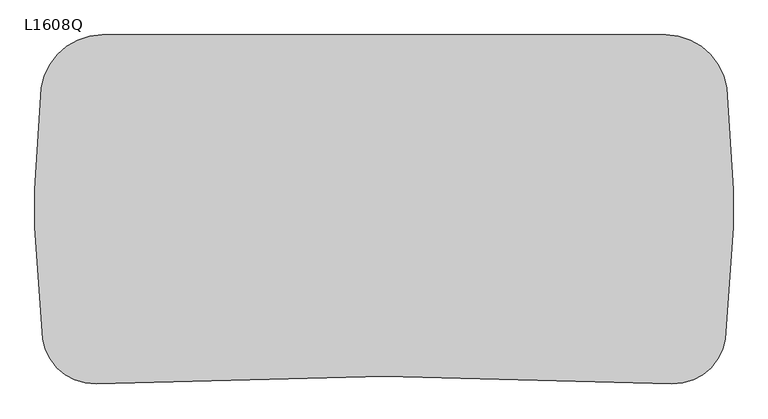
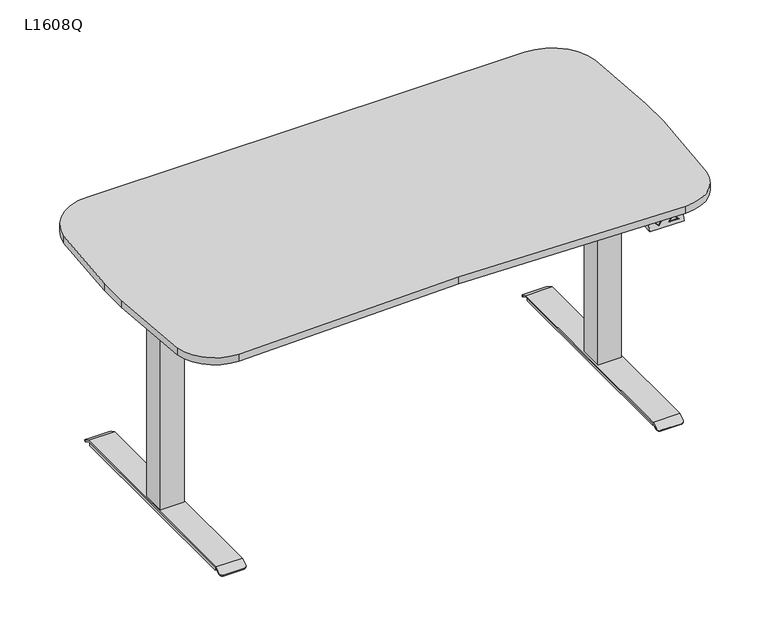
"""IFC4 building model written with IfcOpenShell, lengths in millimetres: furniture geometry, PINTA EQC : L1608Q."""

from ifc_helpers import new_model, si_unit, point, frame, frame_2d, origin, origin_with_axes, place, context, project, spatial, polyline, circle_curve, trimmed, segment, composite_curve, outline, extrude, faceted_brep, source, transform, mapped, element, save
from ifc_brep_helpers import plane_surface, cylinder_surface, advanced_brep


def l1608q_19601a8c(model_context):
    return source(origin(), model_context, "Body", "SolidModel", [
        faceted_brep([(577.0825823, -780.5086096, 687.8390737), (587.1666, -783.989927, 678.1894724), (587.1418016, -784.9382861, 678.5057002), (577.0577839, -781.4569687, 688.1553015), (597.4187767, -781.040375, 687.8390737), (597.3939783, -781.9887341, 688.1553015), (617.1453864, -785.1933595, 676.9313251), (632.2642527, -780.8436606, 691.1615746), (632.2394543, -781.7920198, 691.4778023), (617.120588, -786.1417187, 677.2475529), (559.5596595, -787.7201455, 668.0), (659.5254893, -790.3341237, 668.0), (659.7868871, -780.3375407, 698.0), (559.8210574, -777.7235626, 698.0), (572.2475389, -780.6985153, 690.0526681), (602.2372878, -781.4827087, 690.0526681), (587.1184215, -785.8324077, 675.8224186), (647.1103369, -786.9259121, 677.2475529), (642.3000919, -786.1674587, 679.1449195), (632.2160742, -782.6861413, 688.7945208), (621.9638975, -785.6356933, 679.1449195), (602.2620862, -780.5343496, 689.7364403), (572.2723373, -779.7501561, 689.7364403), (587.1432199, -784.8840485, 675.5061908), (647.1351353, -785.977553, 676.9313251), (632.2408726, -781.7377822, 688.478293), (642.3248903, -785.2190995, 678.8286917), (621.9886958, -784.6873342, 678.8286917), (560.343853, -757.7303966, 668.0), (660.3096827, -760.3443748, 668.0), (660.5710806, -750.3477918, 698.0), (560.6052508, -747.7338136, 698.0)], [[[0, 1, 2, 3]], [[1, 4, 5, 2]], [[6, 7, 8, 9]], [[10, 11, 12, 13], [14, 15, 16], [17, 9, 8]], [[2, 5, 3]], [[18, 19, 20]], [[21, 22, 23], [4, 1, 0]], [[6, 24, 7], [25, 26, 27]], [[10, 28, 29, 11]], [[13, 12, 30, 31]], [[28, 10, 13, 31]], [[11, 29, 30, 12]], [[29, 28, 31, 30]], [[22, 21, 15, 14]], [[23, 22, 14, 16]], [[21, 23, 16, 15]], [[24, 6, 9, 17]], [[7, 24, 17, 8]], [[4, 0, 3, 5]], [[26, 25, 19, 18]], [[27, 26, 18, 20]], [[25, 27, 20, 19]]]),
        extrude(outline(polyline([(-679.2088623, -459.7732181), (680.0, -459.7733091), (680.0, -479.7733091), (-679.2088623, -479.7732181), (-679.2088623, -459.7732181)])), frame((0.0, 0.0, 658.0), z_axis=(0.0, 0.0, 1.0), x_axis=(1.0, 0.0, 0.0)), (0.0, 0.0, 1.0), 40.0),
        extrude(outline(polyline([(-679.2088623, -319.7732181), (680.0, -319.7733091), (680.0, -339.7733091), (-679.2088623, -339.7732181), (-679.2088623, -319.7732181)])), frame((0.0, 0.0, 658.0), z_axis=(0.0, 0.0, 1.0), x_axis=(1.0, 0.0, 0.0)), (0.0, 0.0, 1.0), 40.0),
        extrude(outline(composite_curve([segment(polyline([(-0.0003891, -782.0390015), (-658.8804601, -799.2677497)]), True, "CONTINUOUS"), segment(trimmed(circle_curve(frame_2d((-662.017212, -679.3087534)), 120.0), [point((-658.8804601, -799.2677497))], [point((-780.8108936, -696.2811199))], False, "CARTESIAN"), True, "CONTINUOUS"), segment(trimmed(circle_curve(frame_2d((1001.0943298, -441.6956237)), 1800.0), [point((-780.8108936, -696.2811199))], [point((-798.9056702, -441.6956237))], False, "CARTESIAN"), True, "CONTINUOUS"), segment(polyline([(-798.9056702, -441.6956237), (-798.9056702, -353.9736003)]), True, "CONTINUOUS"), segment(trimmed(circle_curve(frame_2d((1001.0943298, -353.9736003)), 1800.0), [point((-798.9056702, -353.9736003))], [point((-783.8894014, -121.9540337))], False, "CARTESIAN"), True, "CONTINUOUS"), segment(trimmed(circle_curve(frame_2d((-645.0573334, -140.0)), 140.0), [point((-783.8894014, -121.9540337))], [point((-645.0573334, 0.0))], False, "CARTESIAN"), True, "CONTINUOUS"), segment(polyline([(-645.0573334, 0.0), (645.0519623, 0.0)]), True, "CONTINUOUS"), segment(trimmed(circle_curve(frame_2d((645.0519623, -140.0)), 140.0), [point((645.0519623, 0.0))], [point((783.8840303, -121.9540337))], False, "CARTESIAN"), True, "CONTINUOUS"), segment(trimmed(circle_curve(frame_2d((-1001.0997009, -353.9736003)), 1800.0), [point((783.8840303, -121.9540337))], [point((798.9002991, -353.9736003))], False, "CARTESIAN"), True, "CONTINUOUS"), segment(polyline([(798.9002991, -353.9736003), (798.9002991, -441.6956237)]), True, "CONTINUOUS"), segment(trimmed(circle_curve(frame_2d((-1001.0997009, -441.6956237)), 1800.0), [point((798.9002991, -441.6956237))], [point((780.8055225, -696.2811199))], False, "CARTESIAN"), True, "CONTINUOUS"), segment(trimmed(circle_curve(frame_2d((662.0118409, -679.3087534)), 120.0), [point((780.8055225, -696.2811199))], [point((658.8750671, -799.2677491))], False, "CARTESIAN"), True, "CONTINUOUS"), segment(polyline([(658.8750671, -799.2677491), (-0.0003891, -782.0390015)]), True, "CONTINUOUS")], self_intersect=False)), frame((0.0, 0.0, 698.0), z_axis=(0.0, 0.0, 1.0), x_axis=(1.0, 0.0, 0.0)), (0.0, 0.0, 1.0), 22.0),
        advanced_brep(
        [(606.9772339, -720.0, 6.0), (606.9772339, -720.0, 16.0), (606.9772339, -80.0, 16.0), (606.9772339, -80.0, 6.0), (683.0227661, -80.0, 16.0), (683.0227661, -80.0, 6.0), (683.0227661, -720.0, 16.0), (683.0227661, -720.0, 6.0), (606.0, -75.0, 20.0), (606.0, -56.9800481, 9.908827), (606.0, -58.9344616, 6.4188029), (606.0, -76.0437422, 16.0), (606.0, -723.9562578, 16.0), (606.0, -741.0655384, 6.4188029), (606.0, -743.0199519, 9.908827), (606.0, -725.0, 20.0), (684.0, -76.0437422, 16.0), (684.0, -58.9344616, 6.4188029), (684.0, -56.9800481, 9.908827), (684.0, -75.0, 20.0), (684.0, -725.0, 20.0), (684.0, -743.0199519, 9.908827), (684.0, -741.0655384, 6.4188029), (684.0, -723.9562578, 16.0), (614.0, -750.0, 6.0), (676.0, -750.0, 6.0), (614.0, -748.0455865, 2.5099759), (676.0, -748.0455865, 2.5099759), (614.0, -51.9544135, 2.5099759), (676.0, -51.9544135, 2.5099759), (614.0, -50.0, 6.0), (676.0, -50.0, 6.0)],
        [
            (0, 1),
            (1, 2),
            (2, 3),
            (3, 0),
            (2, 4),
            (4, 5),
            (5, 3),
            (4, 6),
            (6, 7),
            (7, 5),
            (6, 1),
            (0, 7),
            (8, 9),
            (9, 10),
            (10, 11),
            (11, 12),
            (12, 13),
            (13, 14),
            (14, 15),
            (15, 8),
            (16, 17),
            (17, 18),
            (18, 19),
            (19, 20),
            (20, 21),
            (21, 22),
            (22, 23),
            (23, 16),
            (15, 20),
            (19, 8),
            (11, 16),
            (23, 12),
            (14, 24, circle_curve(frame((614.0, -743.0199519, 9.908827), z_axis=(0.0, -0.4886033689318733, 0.8725060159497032), x_axis=(0.0, 0.8725060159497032, 0.4886033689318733)), 8.0)),
            (24, 25),
            (25, 21, circle_curve(frame((676.0, -743.0199519, 9.908827), z_axis=(0.0, -0.4886033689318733, 0.8725060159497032), x_axis=(0.0, 0.8725060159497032, 0.4886033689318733)), 8.0)),
            (24, 26),
            (26, 27),
            (27, 25),
            (22, 27, circle_curve(frame((676.0, -741.0655384, 6.4188029), z_axis=(0.0, 0.4886033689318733, -0.8725060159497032), x_axis=(0.0, 0.8725060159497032, 0.4886033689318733)), 8.0)),
            (26, 13, circle_curve(frame((614.0, -741.0655384, 6.4188029), z_axis=(0.0, 0.4886033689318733, -0.8725060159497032), x_axis=(0.0, 0.8725060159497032, 0.4886033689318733)), 8.0)),
            (10, 28, circle_curve(frame((614.0, -58.9344616, 6.4188029), z_axis=(0.0, -0.4886033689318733, -0.8725060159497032), x_axis=(0.0, -0.8725060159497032, 0.4886033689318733)), 8.0)),
            (28, 29),
            (29, 17, circle_curve(frame((676.0, -58.9344616, 6.4188029), z_axis=(0.0, -0.4886033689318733, -0.8725060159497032), x_axis=(0.0, -0.8725060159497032, 0.4886033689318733)), 8.0)),
            (28, 30),
            (30, 31),
            (31, 29),
            (18, 31, circle_curve(frame((676.0, -56.9800481, 9.908827), z_axis=(0.0, 0.4886033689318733, 0.8725060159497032), x_axis=(0.0, -0.8725060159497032, 0.4886033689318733)), 8.0)),
            (30, 9, circle_curve(frame((614.0, -56.9800481, 9.908827), z_axis=(0.0, 0.4886033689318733, 0.8725060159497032), x_axis=(0.0, -0.8725060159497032, 0.4886033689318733)), 8.0)),
        ],
        [
            plane_surface(frame((606.9772339, -720.0, 16.0), z_axis=(-1.0, 0.0, 0.0), x_axis=(0.0, 0.0, -1.0))),
            plane_surface(frame((606.9772339, -80.0, 16.0), z_axis=(0.0, 1.0, 0.0), x_axis=(0.0, 0.0, -1.0))),
            plane_surface(frame((683.0227661, -80.0, 16.0), z_axis=(1.0, 0.0, 0.0), x_axis=(0.0, 0.0, -1.0))),
            plane_surface(frame((683.0227661, -720.0, 16.0), z_axis=(0.0, -1.0, 0.0), x_axis=(0.0, 0.0, -1.0))),
            plane_surface(frame((606.9772339, -723.4188232, 6.0), z_axis=(0.0, 0.0, -1.0), x_axis=(0.0, -1.0, 0.0))),
            plane_surface(frame((606.0, -400.0, 20.0), z_axis=(-1.0, 0.0, 0.0), x_axis=(0.0, -1.0, 0.0))),
            plane_surface(frame((684.0, -400.0, 20.0), z_axis=(1.0, 0.0, 0.0), x_axis=(0.0, 1.0, 0.0))),
            plane_surface(frame((606.0, -75.0, 20.0), z_axis=(0.0, 0.0, 1.0), x_axis=(1.0, 0.0, 0.0))),
            plane_surface(frame((606.0, -723.9562578, 16.0), z_axis=(0.0, 0.0, -1.0), x_axis=(1.0, 0.0, 0.0))),
            plane_surface(frame((606.0, -725.0, 20.0), z_axis=(0.0, -0.4886033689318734, 0.8725060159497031), x_axis=(1.0, 0.0, 0.0))),
            plane_surface(frame((606.0, -750.0, 6.0), z_axis=(0.0, -0.872506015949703, -0.4886033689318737), x_axis=(1.0, 0.0, 0.0))),
            plane_surface(frame((606.0, -748.0455865, 2.5099759), z_axis=(0.0, 0.4886033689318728, -0.8725060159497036), x_axis=(1.0, 0.0, 0.0))),
            plane_surface(frame((606.0, -76.0437422, 16.0), z_axis=(0.0, -0.4886033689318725, -0.8725060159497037), x_axis=(1.0, 0.0, 0.0))),
            plane_surface(frame((606.0, -51.9544135, 2.5099759), z_axis=(0.0, 0.8725060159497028, -0.48860336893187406), x_axis=(1.0, 0.0, 0.0))),
            plane_surface(frame((606.0, -50.0, 6.0), z_axis=(0.0, 0.48860336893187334, 0.8725060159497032), x_axis=(1.0, 0.0, 0.0))),
            cylinder_surface(frame((614.0, -743.0199519, 9.908827), z_axis=(0.0, -0.4886033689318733, 0.8725060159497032), x_axis=(0.0, 0.8725060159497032, 0.4886033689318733)), 8.0),
            cylinder_surface(frame((676.0, -743.0199519, 9.908827), z_axis=(0.0, -0.4886033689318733, 0.8725060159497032), x_axis=(0.0, 0.8725060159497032, 0.4886033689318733)), 8.0),
            cylinder_surface(frame((614.0, -56.9800481, 9.908827), z_axis=(0.0, 0.4886033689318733, 0.8725060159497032), x_axis=(0.0, -0.8725060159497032, 0.4886033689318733)), 8.0),
            cylinder_surface(frame((676.0, -56.9800481, 9.908827), z_axis=(0.0, 0.4886033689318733, 0.8725060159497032), x_axis=(0.0, -0.8725060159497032, 0.4886033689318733)), 8.0),
        ],
        [
            (0, [[1, 2, 3, 4]]),
            (1, [[-3, 5, 6, 7]]),
            (2, [[-6, 8, 9, 10]]),
            (3, [[-9, 11, -1, 12]]),
            (4, [[-4, -7, -10, -12]]),
            (5, [[13, 14, 15, 16, 17, 18, 19, 20]]),
            (6, [[21, 22, 23, 24, 25, 26, 27, 28]]),
            (7, [[29, -24, 30, -20]]),
            (8, [[31, -28, 32, -16], [-11, -8, -5, -2]]),
            (9, [[-19, 33, 34, 35, -25, -29]]),
            (10, [[36, 37, 38, -34]]),
            (11, [[-27, 39, -37, 40, -17, -32]]),
            (12, [[-15, 41, 42, 43, -21, -31]]),
            (13, [[44, 45, 46, -42]]),
            (14, [[-23, 47, -45, 48, -13, -30]]),
            (15, [[-40, -36, -33, -18]]),
            (16, [[-35, -38, -39, -26]]),
            (17, [[-48, -44, -41, -14]]),
            (18, [[-43, -46, -47, -22]]),
        ],
    ),
        faceted_brep([(479.4551307, -460.0, 698.0), (662.9996948, -460.0, 698.0), (662.9996948, -700.0, 698.0), (679.4551307, -700.0, 698.0), (683.0, -700.0, 698.0), (683.0, -100.0, 698.0), (679.4551307, -100.0, 698.0), (662.9996948, -100.0, 698.0), (662.9996948, -340.0, 698.0), (479.4551307, -340.0, 698.0), (479.4551307, -460.0, 635.2327881), (479.4551307, -340.0, 635.2327881), (679.4551307, -340.0, 635.2327881), (679.4551307, -303.8252348, 635.2327881), (683.0, -303.8252348, 635.2327881), (683.0, -496.1747652, 635.2327881), (679.4551307, -496.1747652, 635.2327881), (679.4551307, -460.0, 635.2327881), (662.9996948, -340.0, 694.9093018), (679.4551307, -340.0, 694.9093018), (679.4551307, -460.0, 694.9093018), (662.9996948, -460.0, 694.9093018), (679.4551307, -700.0, 694.9093018), (662.9996948, -700.0, 694.9093018), (679.4551307, -100.0, 694.9093018), (662.9996948, -100.0, 694.9093018), (679.4551307, -101.1249222, 694.9093018), (679.4551307, -698.8750778, 694.9093018), (679.4551307, -108.5505036, 674.5076845), (679.4551307, -691.4494964, 674.5076845), (683.0, -108.5505036, 674.5076845), (683.0, -691.4494964, 674.5076845)], [[[0, 1, 2, 3, 4, 5, 6, 7, 8, 9]], [[10, 11, 12, 13, 14, 15, 16, 17]], [[9, 11, 10, 0]], [[11, 9, 8, 18, 19, 12]], [[17, 20, 21, 1, 0, 10]], [[22, 3, 2, 23]], [[24, 25, 7, 6]], [[24, 26, 19, 18, 25]], [[23, 21, 20, 27, 22]], [[2, 1, 21, 23]], [[25, 18, 8, 7]], [[13, 12, 19, 26, 28]], [[29, 27, 20, 17, 16]], [[15, 14, 30, 5, 4, 31]], [[16, 15, 31, 29]], [[22, 27, 3]], [[6, 26, 24]], [[4, 3, 27, 29, 31]], [[28, 30, 14, 13]], [[30, 28, 26, 6, 5]]]),
        extrude(outline(composite_curve([segment(trimmed(circle_curve(frame_2d((645.0, -705.0)), 25.0), [point((670.0, -705.0))], [point((620.0, -705.0))], False, "CARTESIAN"), True, "CONTINUOUS"), segment(trimmed(circle_curve(frame_2d((645.0, -705.0)), 25.0), [point((620.0, -705.0))], [point((670.0, -705.0))], False, "CARTESIAN"), True, "CONTINUOUS")], self_intersect=False)), origin_with_axes(), (0.0, 0.0, 1.0), 6.0),
        extrude(outline(composite_curve([segment(trimmed(circle_curve(frame_2d((645.0, -95.0)), 25.0), [point((670.0, -95.0))], [point((620.0, -95.0))], False, "CARTESIAN"), True, "CONTINUOUS"), segment(trimmed(circle_curve(frame_2d((645.0, -95.0)), 25.0), [point((620.0, -95.0))], [point((670.0, -95.0))], False, "CARTESIAN"), True, "CONTINUOUS")], self_intersect=False)), origin_with_axes(), (0.0, 0.0, 1.0), 6.0),
        faceted_brep([(610.0, -365.0, 550.0), (610.0, -434.9621325, 550.0), (680.0, -434.9621325, 550.0), (680.0, -365.0, 550.0), (675.0, -370.0, 550.0), (675.0, -429.9621325, 550.0), (615.0, -429.9621325, 550.0), (615.0, -370.0, 550.0), (610.0, -365.0, 20.0), (680.0, -365.0, 20.0), (680.0, -434.9621325, 20.0), (610.0, -434.9621325, 20.0), (615.0, -370.0, 592.616394), (615.0, -429.9621325, 592.616394), (675.0, -429.9621325, 592.616394), (675.0, -370.0, 592.616394), (670.0, -375.0, 592.616394), (670.0, -424.9621325, 592.616394), (620.0, -424.9621325, 592.616394), (620.0, -375.0, 592.616394), (620.0, -375.0, 635.2327881), (620.0, -424.9621325, 635.2327881), (670.0, -424.9621325, 635.2327881), (670.0, -375.0, 635.2327881)], [[[0, 1, 2, 3], [4, 5, 6, 7]], [[8, 9, 10, 11]], [[3, 9, 8, 0]], [[2, 10, 9, 3]], [[1, 11, 10, 2]], [[0, 8, 11, 1]], [[12, 13, 14, 15], [16, 17, 18, 19]], [[15, 4, 7, 12]], [[14, 5, 4, 15]], [[13, 6, 5, 14]], [[12, 7, 6, 13]], [[20, 21, 22, 23]], [[23, 16, 19, 20]], [[22, 17, 16, 23]], [[21, 18, 17, 22]], [[20, 19, 18, 21]]]),
        advanced_brep(
        [(-606.9772339, -720.0, 6.0), (-606.9772339, -80.0, 6.0), (-606.9772339, -80.0, 16.0), (-606.9772339, -720.0, 16.0), (-683.0227661, -80.0, 6.0), (-683.0227661, -80.0, 16.0), (-683.0227661, -720.0, 6.0), (-683.0227661, -720.0, 16.0), (-606.0, -75.0, 20.0), (-606.0, -725.0, 20.0), (-606.0, -743.0199519, 9.908827), (-606.0, -741.0655384, 6.4188029), (-606.0, -723.9562578, 16.0), (-606.0, -76.0437422, 16.0), (-606.0, -58.9344616, 6.4188029), (-606.0, -56.9800481, 9.908827), (-684.0, -76.0437422, 16.0), (-684.0, -723.9562578, 16.0), (-684.0, -741.0655384, 6.4188029), (-684.0, -743.0199519, 9.908827), (-684.0, -725.0, 20.0), (-684.0, -75.0, 20.0), (-684.0, -56.9800481, 9.908827), (-684.0, -58.9344616, 6.4188029), (-676.0, -750.0, 6.0), (-614.0, -750.0, 6.0), (-676.0, -748.0455865, 2.5099759), (-614.0, -748.0455865, 2.5099759), (-676.0, -51.9544135, 2.5099759), (-614.0, -51.9544135, 2.5099759), (-676.0, -50.0, 6.0), (-614.0, -50.0, 6.0)],
        [
            (0, 1),
            (1, 2),
            (2, 3),
            (3, 0),
            (1, 4),
            (4, 5),
            (5, 2),
            (4, 6),
            (6, 7),
            (7, 5),
            (6, 0),
            (3, 7),
            (8, 9),
            (9, 10),
            (10, 11),
            (11, 12),
            (12, 13),
            (13, 14),
            (14, 15),
            (15, 8),
            (16, 17),
            (17, 18),
            (18, 19),
            (19, 20),
            (20, 21),
            (21, 22),
            (22, 23),
            (23, 16),
            (8, 21),
            (20, 9),
            (12, 17),
            (16, 13),
            (19, 24, circle_curve(frame((-676.0, -743.0199519, 9.908827), z_axis=(0.0, -0.4886033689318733, 0.8725060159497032), x_axis=(0.0, 0.8725060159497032, 0.4886033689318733)), 8.0)),
            (24, 25),
            (25, 10, circle_curve(frame((-614.0, -743.0199519, 9.908827), z_axis=(0.0, -0.4886033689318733, 0.8725060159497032), x_axis=(0.0, 0.8725060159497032, 0.4886033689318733)), 8.0)),
            (24, 26),
            (26, 27),
            (27, 25),
            (11, 27, circle_curve(frame((-614.0, -741.0655384, 6.4188029), z_axis=(0.0, 0.4886033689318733, -0.8725060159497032), x_axis=(0.0, 0.8725060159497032, 0.4886033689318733)), 8.0)),
            (26, 18, circle_curve(frame((-676.0, -741.0655384, 6.4188029), z_axis=(0.0, 0.4886033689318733, -0.8725060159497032), x_axis=(0.0, 0.8725060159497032, 0.4886033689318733)), 8.0)),
            (23, 28, circle_curve(frame((-676.0, -58.9344616, 6.4188029), z_axis=(0.0, -0.4886033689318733, -0.8725060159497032), x_axis=(0.0, -0.8725060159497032, 0.4886033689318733)), 8.0)),
            (28, 29),
            (29, 14, circle_curve(frame((-614.0, -58.9344616, 6.4188029), z_axis=(0.0, -0.4886033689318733, -0.8725060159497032), x_axis=(0.0, -0.8725060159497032, 0.4886033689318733)), 8.0)),
            (28, 30),
            (30, 31),
            (31, 29),
            (15, 31, circle_curve(frame((-614.0, -56.9800481, 9.908827), z_axis=(0.0, 0.4886033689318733, 0.8725060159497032), x_axis=(0.0, -0.8725060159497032, 0.4886033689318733)), 8.0)),
            (30, 22, circle_curve(frame((-676.0, -56.9800481, 9.908827), z_axis=(0.0, 0.4886033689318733, 0.8725060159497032), x_axis=(0.0, -0.8725060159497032, 0.4886033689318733)), 8.0)),
        ],
        [
            plane_surface(frame((-606.9772339, -720.0, 16.0), z_axis=(1.0, 0.0, 0.0), x_axis=(0.0, 0.0, -1.0))),
            plane_surface(frame((-606.9772339, -80.0, 16.0), z_axis=(0.0, 1.0, 0.0), x_axis=(0.0, 0.0, -1.0))),
            plane_surface(frame((-683.0227661, -80.0, 16.0), z_axis=(-1.0, 0.0, 0.0), x_axis=(0.0, 0.0, -1.0))),
            plane_surface(frame((-683.0227661, -720.0, 16.0), z_axis=(0.0, -1.0, 0.0), x_axis=(0.0, 0.0, -1.0))),
            plane_surface(frame((-606.9772339, -723.4188232, 6.0), z_axis=(0.0, 0.0, -1.0), x_axis=(0.0, -1.0, 0.0))),
            plane_surface(frame((-606.0, -400.0, 20.0), z_axis=(1.0, 0.0, 0.0), x_axis=(0.0, -1.0, 0.0))),
            plane_surface(frame((-684.0, -400.0, 20.0), z_axis=(-1.0, 0.0, 0.0), x_axis=(0.0, 1.0, 0.0))),
            plane_surface(frame((-606.0, -75.0, 20.0), z_axis=(0.0, 0.0, 1.0), x_axis=(-1.0, 0.0, 0.0))),
            plane_surface(frame((-606.0, -723.9562578, 16.0), z_axis=(0.0, 0.0, -1.0), x_axis=(-1.0, 0.0, 0.0))),
            plane_surface(frame((-606.0, -725.0, 20.0), z_axis=(0.0, -0.4886033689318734, 0.8725060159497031), x_axis=(-1.0, 0.0, 0.0))),
            plane_surface(frame((-606.0, -750.0, 6.0), z_axis=(0.0, -0.872506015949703, -0.4886033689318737), x_axis=(-1.0, 0.0, 0.0))),
            plane_surface(frame((-606.0, -748.0455865, 2.5099759), z_axis=(0.0, 0.4886033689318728, -0.8725060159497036), x_axis=(-1.0, 0.0, 0.0))),
            plane_surface(frame((-606.0, -76.0437422, 16.0), z_axis=(0.0, -0.4886033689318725, -0.8725060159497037), x_axis=(-1.0, 0.0, 0.0))),
            plane_surface(frame((-606.0, -51.9544135, 2.5099759), z_axis=(0.0, 0.8725060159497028, -0.48860336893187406), x_axis=(-1.0, 0.0, 0.0))),
            plane_surface(frame((-606.0, -50.0, 6.0), z_axis=(0.0, 0.48860336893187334, 0.8725060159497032), x_axis=(-1.0, 0.0, 0.0))),
            cylinder_surface(frame((-614.0, -743.0199519, 9.908827), z_axis=(0.0, -0.4886033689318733, 0.8725060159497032), x_axis=(0.0, 0.8725060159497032, 0.4886033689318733)), 8.0),
            cylinder_surface(frame((-676.0, -743.0199519, 9.908827), z_axis=(0.0, -0.4886033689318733, 0.8725060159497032), x_axis=(0.0, 0.8725060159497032, 0.4886033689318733)), 8.0),
            cylinder_surface(frame((-614.0, -56.9800481, 9.908827), z_axis=(0.0, 0.4886033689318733, 0.8725060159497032), x_axis=(0.0, -0.8725060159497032, 0.4886033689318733)), 8.0),
            cylinder_surface(frame((-676.0, -56.9800481, 9.908827), z_axis=(0.0, 0.4886033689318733, 0.8725060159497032), x_axis=(0.0, -0.8725060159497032, 0.4886033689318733)), 8.0),
        ],
        [
            (0, [[1, 2, 3, 4]]),
            (1, [[5, 6, 7, -2]]),
            (2, [[8, 9, 10, -6]]),
            (3, [[11, -4, 12, -9]]),
            (4, [[-11, -8, -5, -1]]),
            (5, [[13, 14, 15, 16, 17, 18, 19, 20]]),
            (6, [[21, 22, 23, 24, 25, 26, 27, 28]]),
            (7, [[-13, 29, -25, 30]]),
            (8, [[-17, 31, -21, 32], [-3, -7, -10, -12]]),
            (9, [[-30, -24, 33, 34, 35, -14]]),
            (10, [[-34, 36, 37, 38]]),
            (11, [[-31, -16, 39, -37, 40, -22]]),
            (12, [[-32, -28, 41, 42, 43, -18]]),
            (13, [[-42, 44, 45, 46]]),
            (14, [[-29, -20, 47, -45, 48, -26]]),
            (15, [[-15, -35, -38, -39]]),
            (16, [[-23, -40, -36, -33]]),
            (17, [[-19, -43, -46, -47]]),
            (18, [[-27, -48, -44, -41]]),
        ],
    ),
        faceted_brep([(-479.4551307, -460.0, 698.0), (-479.4551307, -340.0, 698.0), (-662.9996948, -340.0, 698.0), (-662.9996948, -100.0, 698.0), (-679.4551307, -100.0, 698.0), (-683.0, -100.0, 698.0), (-683.0, -700.0, 698.0), (-679.4551307, -700.0, 698.0), (-662.9996948, -700.0, 698.0), (-662.9996948, -460.0, 698.0), (-479.4551307, -460.0, 635.2327881), (-679.4551307, -460.0, 635.2327881), (-679.4551307, -496.1747652, 635.2327881), (-683.0, -496.1747652, 635.2327881), (-683.0, -303.8252348, 635.2327881), (-679.4551307, -303.8252348, 635.2327881), (-679.4551307, -340.0, 635.2327881), (-479.4551307, -340.0, 635.2327881), (-679.4551307, -340.0, 694.9093018), (-662.9996948, -340.0, 694.9093018), (-662.9996948, -460.0, 694.9093018), (-679.4551307, -460.0, 694.9093018), (-679.4551307, -700.0, 694.9093018), (-662.9996948, -700.0, 694.9093018), (-679.4551307, -100.0, 694.9093018), (-662.9996948, -100.0, 694.9093018), (-679.4551307, -698.8750778, 694.9093018), (-679.4551307, -101.1249222, 694.9093018), (-679.4551307, -691.4494964, 674.5076845), (-679.4551307, -108.5505036, 674.5076845), (-683.0, -691.4494964, 674.5076845), (-683.0, -108.5505036, 674.5076845)], [[[0, 1, 2, 3, 4, 5, 6, 7, 8, 9]], [[10, 11, 12, 13, 14, 15, 16, 17]], [[1, 0, 10, 17]], [[17, 16, 18, 19, 2, 1]], [[11, 10, 0, 9, 20, 21]], [[22, 23, 8, 7]], [[24, 4, 3, 25]], [[23, 22, 26, 21, 20]], [[24, 25, 19, 18, 27]], [[8, 23, 20, 9]], [[25, 3, 2, 19]], [[28, 12, 11, 21, 26]], [[15, 29, 27, 18, 16]], [[13, 30, 6, 5, 31, 14]], [[12, 28, 30, 13]], [[22, 7, 26]], [[4, 24, 27]], [[6, 30, 28, 26, 7]], [[29, 15, 14, 31]], [[31, 5, 4, 27, 29]]]),
        extrude(outline(composite_curve([segment(trimmed(circle_curve(frame_2d((-645.0, -705.0)), 25.0), [point((-670.0, -705.0))], [point((-620.0, -705.0))], False, "CARTESIAN"), True, "CONTINUOUS"), segment(trimmed(circle_curve(frame_2d((-645.0, -705.0)), 25.0), [point((-620.0, -705.0))], [point((-670.0, -705.0))], False, "CARTESIAN"), True, "CONTINUOUS")], self_intersect=False)), origin_with_axes(), (0.0, 0.0, 1.0), 6.0),
        extrude(outline(composite_curve([segment(trimmed(circle_curve(frame_2d((-645.0, -95.0)), 25.0), [point((-670.0, -95.0))], [point((-620.0, -95.0))], False, "CARTESIAN"), True, "CONTINUOUS"), segment(trimmed(circle_curve(frame_2d((-645.0, -95.0)), 25.0), [point((-620.0, -95.0))], [point((-670.0, -95.0))], False, "CARTESIAN"), True, "CONTINUOUS")], self_intersect=False)), origin_with_axes(), (0.0, 0.0, 1.0), 6.0),
        faceted_brep([(-610.0, -365.0, 550.0), (-680.0, -365.0, 550.0), (-680.0, -434.9621325, 550.0), (-610.0, -434.9621325, 550.0), (-675.0, -370.0, 550.0), (-615.0, -370.0, 550.0), (-615.0, -429.9621325, 550.0), (-675.0, -429.9621325, 550.0), (-610.0, -365.0, 20.0), (-610.0, -434.9621325, 20.0), (-680.0, -434.9621325, 20.0), (-680.0, -365.0, 20.0), (-615.0, -370.0, 592.616394), (-675.0, -370.0, 592.616394), (-675.0, -429.9621325, 592.616394), (-615.0, -429.9621325, 592.616394), (-670.0, -375.0, 592.616394), (-620.0, -375.0, 592.616394), (-620.0, -424.9621325, 592.616394), (-670.0, -424.9621325, 592.616394), (-620.0, -375.0, 635.2327881), (-670.0, -375.0, 635.2327881), (-670.0, -424.9621325, 635.2327881), (-620.0, -424.9621325, 635.2327881)], [[[0, 1, 2, 3], [4, 5, 6, 7]], [[8, 9, 10, 11]], [[1, 0, 8, 11]], [[2, 1, 11, 10]], [[3, 2, 10, 9]], [[0, 3, 9, 8]], [[12, 13, 14, 15], [16, 17, 18, 19]], [[13, 12, 5, 4]], [[14, 13, 4, 7]], [[15, 14, 7, 6]], [[12, 15, 6, 5]], [[20, 21, 22, 23]], [[21, 20, 17, 16]], [[22, 21, 16, 19]], [[23, 22, 19, 18]], [[20, 23, 18, 17]]]),
    ])


if __name__ == "__main__":
    model = new_model("IFC4")
    model_context = context("Model", 3, world=origin())
    ifc_project = project(units=[si_unit("LENGTHUNIT", "METRE", prefix="MILLI")], contexts=[model_context])
    site = spatial("IfcSite", under=ifc_project)
    building = spatial("IfcBuilding", under=site)
    placement = place(None, origin())
    l1608q_shape = l1608q_19601a8c(model_context)
    element("IfcFurniture", 1, ObjectType="PINTA EQC : L1608Q", at=placement, inside=building, context=model_context, shape_type="MappedRepresentation", body=[
        mapped(l1608q_shape, transform((0.0, 0.0, 0.0), x_axis=(1.0, 0.0, 0.0), y_axis=(0.0, 1.0, 0.0), z_axis=(0.0, 0.0, 1.0))),
    ])
    save(model, "model.ifc")
